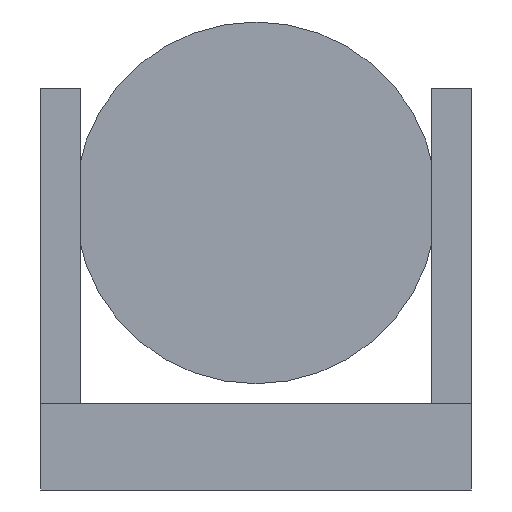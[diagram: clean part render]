
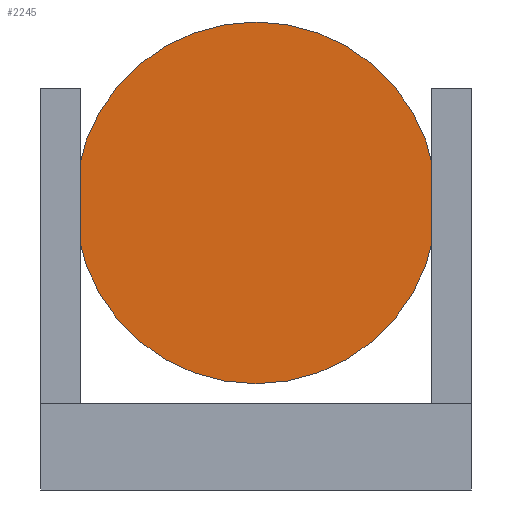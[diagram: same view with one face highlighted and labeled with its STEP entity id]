
A CAD part, left-side view. The second image highlights one B-rep face of the part: STEP entity #2245.
In plain terms, the highlighted planar face has unit normal (-1, 0, 0).
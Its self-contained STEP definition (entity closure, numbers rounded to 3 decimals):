
#2167 = CYLINDRICAL_SURFACE('',#2168,3.15);
#2168 = AXIS2_PLACEMENT_3D('',#2169,#2170,#2171);
#2169 = CARTESIAN_POINT('',(1.35,0.,5.));
#2170 = DIRECTION('',(1.,0.,0.));
#2171 = DIRECTION('',(-0.,0.,1.));
#2192 = VERTEX_POINT('',#2193);
#2193 = CARTESIAN_POINT('',(1.35,0.,8.15));
#2214 = EDGE_CURVE('',#2192,#2192,#2215,.T.);
#2215 = SURFACE_CURVE('',#2216,(#2221,#2228),.PCURVE_S1.);
#2216 = CIRCLE('',#2217,3.15);
#2217 = AXIS2_PLACEMENT_3D('',#2218,#2219,#2220);
#2218 = CARTESIAN_POINT('',(1.35,0.,5.));
#2219 = DIRECTION('',(1.,0.,0.));
#2220 = DIRECTION('',(-0.,0.,1.));
#2221 = PCURVE('',#2167,#2222);
#2222 = DEFINITIONAL_REPRESENTATION('',(#2223),#2227);
#2223 = LINE('',#2224,#2225);
#2224 = CARTESIAN_POINT('',(0.,0.));
#2225 = VECTOR('',#2226,1.);
#2226 = DIRECTION('',(1.,0.));
#2227 = ( GEOMETRIC_REPRESENTATION_CONTEXT(2) 
PARAMETRIC_REPRESENTATION_CONTEXT() REPRESENTATION_CONTEXT('2D SPACE',''
  ) );
#2228 = PCURVE('',#2229,#2234);
#2229 = PLANE('',#2230);
#2230 = AXIS2_PLACEMENT_3D('',#2231,#2232,#2233);
#2231 = CARTESIAN_POINT('',(1.35,0.,5.));
#2232 = DIRECTION('',(1.,0.,0.));
#2233 = DIRECTION('',(-0.,0.,1.));
#2234 = DEFINITIONAL_REPRESENTATION('',(#2235),#2239);
#2235 = CIRCLE('',#2236,3.15);
#2236 = AXIS2_PLACEMENT_2D('',#2237,#2238);
#2237 = CARTESIAN_POINT('',(0.,0.));
#2238 = DIRECTION('',(1.,0.));
#2239 = ( GEOMETRIC_REPRESENTATION_CONTEXT(2) 
PARAMETRIC_REPRESENTATION_CONTEXT() REPRESENTATION_CONTEXT('2D SPACE',''
  ) );
#2245 = ADVANCED_FACE('',(#2246),#2229,.F.);
#2246 = FACE_BOUND('',#2247,.T.);
#2247 = EDGE_LOOP('',(#2248));
#2248 = ORIENTED_EDGE('',*,*,#2214,.F.);
